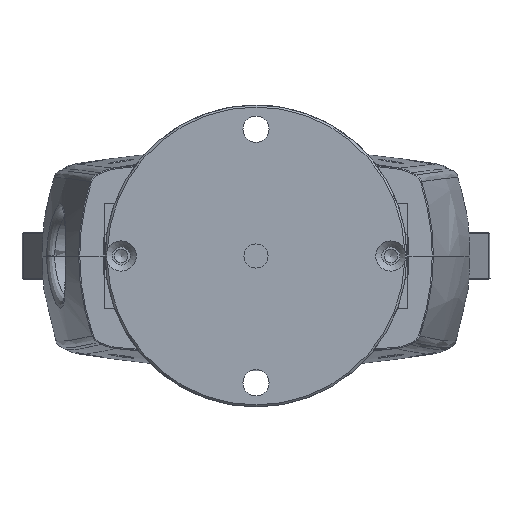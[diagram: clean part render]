
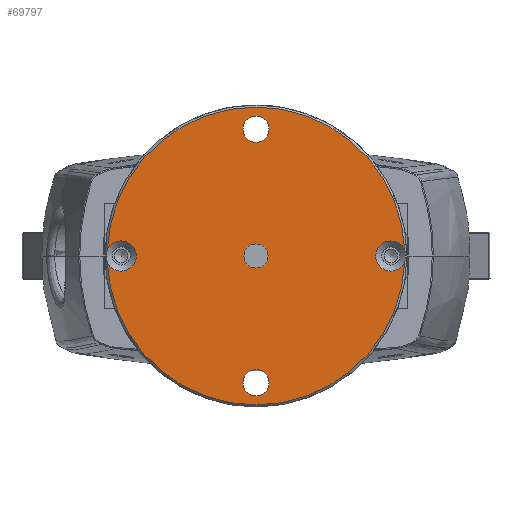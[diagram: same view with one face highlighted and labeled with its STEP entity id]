
A CAD part, front view. The second image highlights one B-rep face of the part: STEP entity #69797.
In plain terms, the highlighted planar face has unit normal (0, -1, 0).
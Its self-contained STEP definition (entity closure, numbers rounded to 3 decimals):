
#1227 = ORIENTED_EDGE ( 'NONE', *, *, #48423, .T. ) ;
#1337 = CIRCLE ( 'NONE', #4568, 3. ) ;
#3376 = DIRECTION ( 'NONE',  ( 1., 0., 0. ) ) ;
#4406 = VERTEX_POINT ( 'NONE', #29995 ) ;
#4568 = AXIS2_PLACEMENT_3D ( 'NONE', #14594, #14889, #42081 ) ;
#5565 = CIRCLE ( 'NONE', #61660, 3.25 ) ;
#7382 = DIRECTION ( 'NONE',  ( 0., 1., 0. ) ) ;
#7971 = DIRECTION ( 'NONE',  ( 1., 0., 0. ) ) ;
#8725 = VERTEX_POINT ( 'NONE', #43428 ) ;
#9407 = CARTESIAN_POINT ( 'NONE',  ( 36.973, -41.498, 1.415 ) ) ;
#12344 = DIRECTION ( 'NONE',  ( 0., 1., 0. ) ) ;
#14594 = CARTESIAN_POINT ( 'NONE',  ( 0., -41.498, 0. ) ) ;
#14889 = DIRECTION ( 'NONE',  ( 0., 1., 0. ) ) ;
#15238 = ORIENTED_EDGE ( 'NONE', *, *, #85505, .T. ) ;
#15779 = EDGE_CURVE ( 'NONE', #49058, #72384, #85485, .T. ) ;
#16090 = ORIENTED_EDGE ( 'NONE', *, *, #15779, .T. ) ;
#16216 = ORIENTED_EDGE ( 'NONE', *, *, #54861, .T. ) ;
#19505 = CARTESIAN_POINT ( 'NONE',  ( 0., -41.498, 31.5 ) ) ;
#20340 = AXIS2_PLACEMENT_3D ( 'NONE', #50633, #57493, #84920 ) ;
#23936 = DIRECTION ( 'NONE',  ( 0., 1., 0. ) ) ;
#27483 = DIRECTION ( 'NONE',  ( -1., 0., 0. ) ) ;
#27854 = CARTESIAN_POINT ( 'NONE',  ( -36.973, -41.498, 1.415 ) ) ;
#29995 = CARTESIAN_POINT ( 'NONE',  ( 3.25, -41.498, 31.5 ) ) ;
#35182 = PLANE ( 'NONE',  #66110 ) ;
#36049 = AXIS2_PLACEMENT_3D ( 'NONE', #51113, #23936, #85399 ) ;
#36961 = DIRECTION ( 'NONE',  ( 0., -1., 0. ) ) ;
#38290 = EDGE_LOOP ( 'NONE', ( #16216, #60101, #16090, #69852 ) ) ;
#40991 = CIRCLE ( 'NONE', #20340, 37. ) ;
#42081 = DIRECTION ( 'NONE',  ( 1., 0., 0. ) ) ;
#43189 = ORIENTED_EDGE ( 'NONE', *, *, #59689, .T. ) ;
#43428 = CARTESIAN_POINT ( 'NONE',  ( 3., -41.498, 0. ) ) ;
#45972 = AXIS2_PLACEMENT_3D ( 'NONE', #81509, #68388, #27483 ) ;
#48423 = EDGE_CURVE ( 'NONE', #8725, #8725, #1337, .T. ) ;
#48739 = CIRCLE ( 'NONE', #51345, 3.25 ) ;
#48942 = CARTESIAN_POINT ( 'NONE',  ( 0., -41.498, 0. ) ) ;
#49058 = VERTEX_POINT ( 'NONE', #27854 ) ;
#50633 = CARTESIAN_POINT ( 'NONE',  ( 0., -41.498, 0. ) ) ;
#50831 = CARTESIAN_POINT ( 'NONE',  ( 0., -41.498, 0. ) ) ;
#51113 = CARTESIAN_POINT ( 'NONE',  ( -33.5, -41.498, 0. ) ) ;
#51345 = AXIS2_PLACEMENT_3D ( 'NONE', #68869, #7382, #7971 ) ;
#53775 = FACE_BOUND ( 'NONE', #78716, .T. ) ;
#54861 = EDGE_CURVE ( 'NONE', #57062, #68933, #77631, .T. ) ;
#57062 = VERTEX_POINT ( 'NONE', #70759 ) ;
#57493 = DIRECTION ( 'NONE',  ( 0., -1., 0. ) ) ;
#58795 = AXIS2_PLACEMENT_3D ( 'NONE', #50831, #85412, #3376 ) ;
#59689 = EDGE_CURVE ( 'NONE', #4406, #4406, #5565, .T. ) ;
#59785 = VERTEX_POINT ( 'NONE', #87836 ) ;
#60101 = ORIENTED_EDGE ( 'NONE', *, *, #68956, .T. ) ;
#61660 = AXIS2_PLACEMENT_3D ( 'NONE', #19505, #12344, #66969 ) ;
#66110 = AXIS2_PLACEMENT_3D ( 'NONE', #48942, #36961, #77834 ) ;
#66589 = FACE_BOUND ( 'NONE', #83130, .T. ) ;
#66969 = DIRECTION ( 'NONE',  ( 1., 0., 0. ) ) ;
#67621 = FACE_BOUND ( 'NONE', #86983, .T. ) ;
#68388 = DIRECTION ( 'NONE',  ( 0., 1., 0. ) ) ;
#68869 = CARTESIAN_POINT ( 'NONE',  ( 0., -41.498, -31.5 ) ) ;
#68933 = VERTEX_POINT ( 'NONE', #9407 ) ;
#68956 = EDGE_CURVE ( 'NONE', #68933, #49058, #40991, .T. ) ;
#69797 = ADVANCED_FACE ( 'NONE', ( #82590, #53775, #67621, #66589 ), #35182, .T. ) ;
#69852 = ORIENTED_EDGE ( 'NONE', *, *, #84626, .T. ) ;
#70759 = CARTESIAN_POINT ( 'NONE',  ( 36.973, -41.498, -1.415 ) ) ;
#72384 = VERTEX_POINT ( 'NONE', #74926 ) ;
#74926 = CARTESIAN_POINT ( 'NONE',  ( -36.973, -41.498, -1.415 ) ) ;
#75422 = CIRCLE ( 'NONE', #58795, 37. ) ;
#77631 = CIRCLE ( 'NONE', #45972, 3.75 ) ;
#77834 = DIRECTION ( 'NONE',  ( -1., 0., 0. ) ) ;
#78716 = EDGE_LOOP ( 'NONE', ( #43189 ) ) ;
#81509 = CARTESIAN_POINT ( 'NONE',  ( 33.5, -41.498, 0. ) ) ;
#82590 = FACE_OUTER_BOUND ( 'NONE', #38290, .T. ) ;
#83130 = EDGE_LOOP ( 'NONE', ( #1227 ) ) ;
#84626 = EDGE_CURVE ( 'NONE', #72384, #57062, #75422, .T. ) ;
#84920 = DIRECTION ( 'NONE',  ( 1., 0., 0. ) ) ;
#85399 = DIRECTION ( 'NONE',  ( -1., 0., 0. ) ) ;
#85412 = DIRECTION ( 'NONE',  ( 0., -1., 0. ) ) ;
#85485 = CIRCLE ( 'NONE', #36049, 3.75 ) ;
#85505 = EDGE_CURVE ( 'NONE', #59785, #59785, #48739, .T. ) ;
#86983 = EDGE_LOOP ( 'NONE', ( #15238 ) ) ;
#87836 = CARTESIAN_POINT ( 'NONE',  ( 3.25, -41.498, -31.5 ) ) ;
